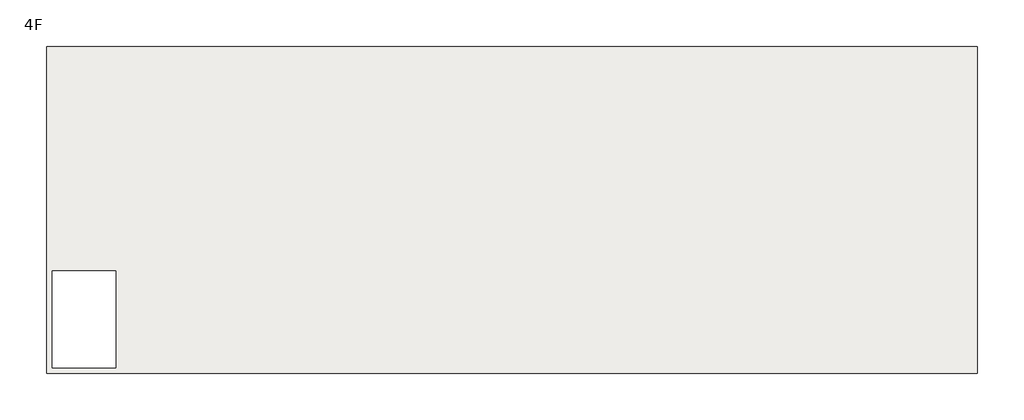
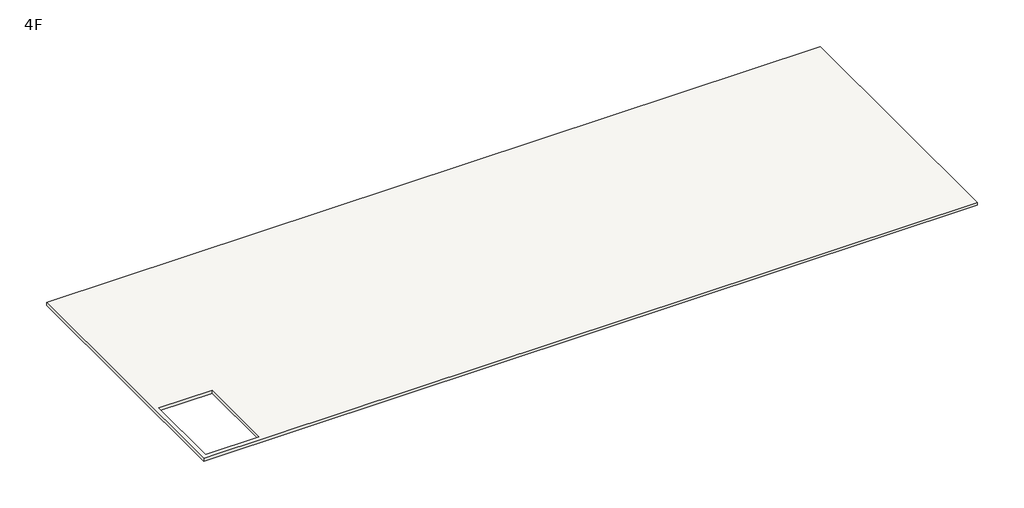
# One storey: 1 slab.
"""IFC4 building model written with IfcOpenShell, lengths in millimetres."""

from ifc_helpers import new_model, si_unit, frame, origin, place, context, project, spatial, polyline, outline, extrude, element, save

model = new_model("IFC4")

# Units and contexts
model_context = context("Model", 3, world=origin())
ifc_project = project(units=[si_unit("LENGTHUNIT", "METRE", prefix="MILLI")], contexts=[model_context])

# Site, building, storey
site = spatial("IfcSite", under=ifc_project)
building = spatial("IfcBuilding", under=site)
storey = spatial("IfcBuildingStorey", under=building, Name="4F", Elevation=11700.0)

# Slab
placement = place(None, origin())
element("IfcSlab", 1, ObjectType="常规 - 150mm", at=placement, inside=storey, context=model_context, shape_type="SweptSolid", body=[
    extrude(outline(polyline([(31359.5620884, 8888.8697102), (31359.5620884, -5251.1302898), (-8880.4379116, -5251.1302898), (-8880.4379116, 8888.8697102), (31359.5620884, 8888.8697102)]), holes=[polyline([(-5880.4379116, -821.1302898), (-8640.4379116, -821.1302898), (-8640.4379116, -5011.1302898), (-5880.4379116, -5011.1302898), (-5880.4379116, -821.1302898)])]), frame((0.0, 0.0, 11550.0), z_axis=(0.0, 0.0, 1.0), x_axis=(1.0, 0.0, 0.0)), (0.0, 0.0, 1.0), 150.0),
])

save(model, "model.ifc")
